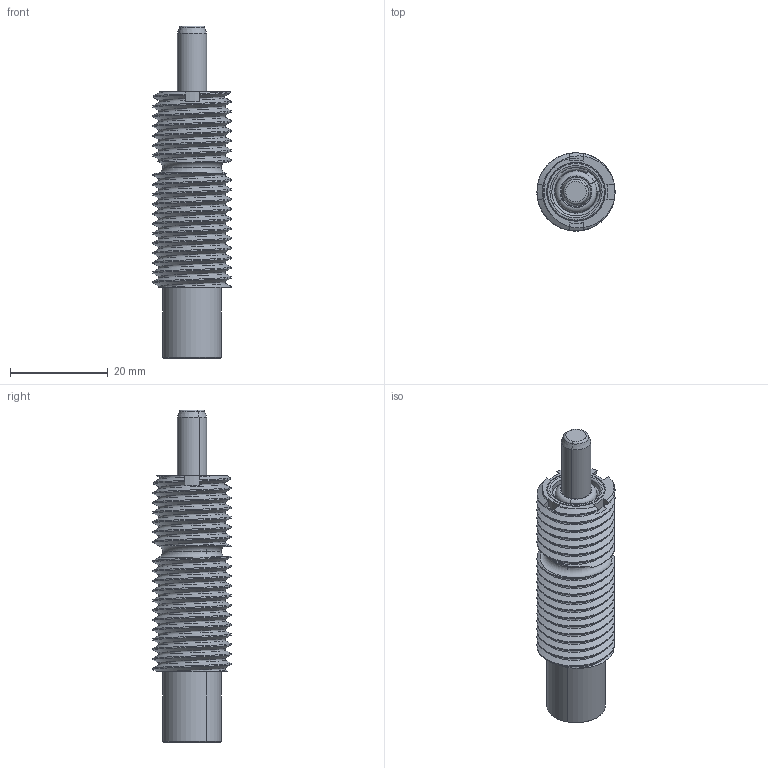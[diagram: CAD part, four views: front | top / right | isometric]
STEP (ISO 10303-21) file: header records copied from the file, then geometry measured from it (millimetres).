
FILE_DESCRIPTION(('FreeCAD Model'),'2;1');
FILE_NAME('Open CASCADE Shape Model','2024-09-16T08:57:01',('Author'),( ''),'Open CASCADE STEP processor 7.6','FreeCAD','Unknown');
FILE_SCHEMA(('AUTOMOTIVE_DESIGN { 1 0 10303 214 1 1 1 1 }'));
Length unit declared in the file: millimetre
Products named in the file (10): TPRN16x7; Cut004; C:\Documents and Settings\Luisg\Mis documentos\Dibujos catálogo 
2009\MICRO25x032; C:\Documents and Settings\Luisg\Mis documentos\Dibujos catálogo 
2009\MICRO25x25; C:\Documents and Settings\Luisg\Mis documentos\Dibujos catálogo 
2009\MICRO25x026; C:\Documents and Settings\Luisg\Mis documentos\Dibujos catálogo 
2009\MICRO25x027; C:\Documents and Settings\Luisg\Mis documentos\Dibujos catálogo 
2009\MICRO25x028; C:\Documents and Settings\Luisg\Mis documentos\Dibujos catálogo 
2009\MICRO25x029; C:\Documents and Settings\Luisg\Mis documentos\Dibujos catálogo 
2009\MICRO25x030; C:\Documents and Settings\Luisg\Mis documentos\Dibujos catálogo 
2009\MICRO25x031
Assembly tree (9 placements, depth 3):
  TPRN16x7
    Cut004
    C:\Documents and Settings\Luisg\Mis documentos\Dibujos catálogo 
2009\MICRO25x032
      C:\Documents and Settings\Luisg\Mis documentos\Dibujos catálogo 
2009\MICRO25x25
      C:\Documents and Settings\Luisg\Mis documentos\Dibujos catálogo 
2009\MICRO25x026
      C:\Documents and Settings\Luisg\Mis documentos\Dibujos catálogo 
2009\MICRO25x027
      C:\Documents and Settings\Luisg\Mis documentos\Dibujos catálogo 
2009\MICRO25x028
      C:\Documents and Settings\Luisg\Mis documentos\Dibujos catálogo 
2009\MICRO25x029
      C:\Documents and Settings\Luisg\Mis documentos\Dibujos catálogo 
2009\MICRO25x030
      C:\Documents and Settings\Luisg\Mis documentos\Dibujos catálogo 
2009\MICRO25x031
Bounding box: 16 x 16 x 68 mm (x, y, z)
Volume: 6337 mm3; surface area: 11168.4 mm2
Topology: 9 solids, 9 shells, 266 faces, 567 edges, 328 vertices
Faces by surface type: cylinder 74, bspline 73, torus 48, plane 45, cone 26
Full cylindrical faces by diameter (mm): 12 x2, 16 x17
Entity records: 15107 total; most frequent: CARTESIAN_POINT 9663, ORIENTED_EDGE 1134, DIRECTION 996, EDGE_CURVE 567, AXIS2_PLACEMENT_3D 427, VERTEX_POINT 328, FACE_BOUND 285, EDGE_LOOP 285
